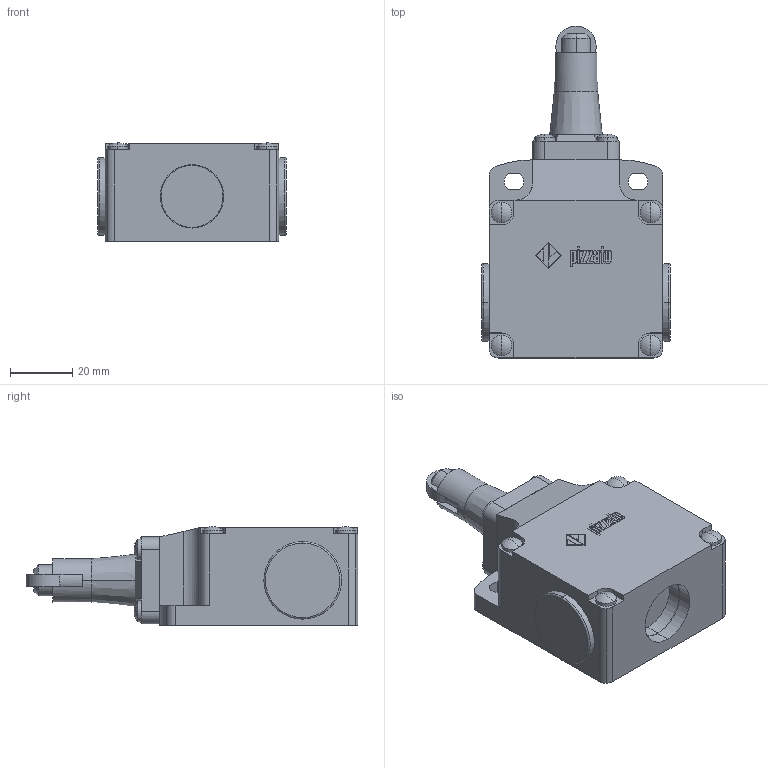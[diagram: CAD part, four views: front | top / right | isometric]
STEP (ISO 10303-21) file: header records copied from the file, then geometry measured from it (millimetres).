
FILE_DESCRIPTION (( 'STEP AP214' ), '1' );
FILE_NAME ('ZF_STEP_FL_x16_A10.step', '2014-04-10T09:04:26', ( 'utente' ), ( 'Microsoft' ), 'SwSTEP 2.0', 'SolidWorks 2013', '' );
FILE_SCHEMA (( 'AUTOMOTIVE_DESIGN' ));
Length unit declared in the file: millimetre
Products named in the file (6): Pizzato_Custodia_FL; ZF_STEP_FL_x16_A10; ZF_STEP_VF_T16_A10; Pizzato_Pistoncino_T16; Pizzato_Supporto_T16; Pizzato_Tappo_Protezione_PG13_M20_PG13
Assembly tree (6 placements, depth 3):
  ZF_STEP_FL_x16_A10
    Pizzato_Custodia_FL
    Pizzato_Tappo_Protezione_PG13_M20_PG13  x2
    ZF_STEP_VF_T16_A10
      Pizzato_Supporto_T16
      Pizzato_Pistoncino_T16
Bounding box: 60.8 x 106.9 x 31.8 mm (x, y, z)
Volume: 109865.4 mm3; surface area: 25498.3 mm2
Topology: 5 solids, 5 shells, 469 faces, 1203 edges, 793 vertices
Faces by surface type: plane 273, cylinder 98, bspline 73, sphere 16, cone 5, torus 4
Entity records: 17580 total; most frequent: CARTESIAN_POINT 6429, ORIENTED_EDGE 2374, DIRECTION 2048, EDGE_CURVE 1187, LINE 812, VECTOR 812, VERTEX_POINT 783, AXIS2_PLACEMENT_3D 618
